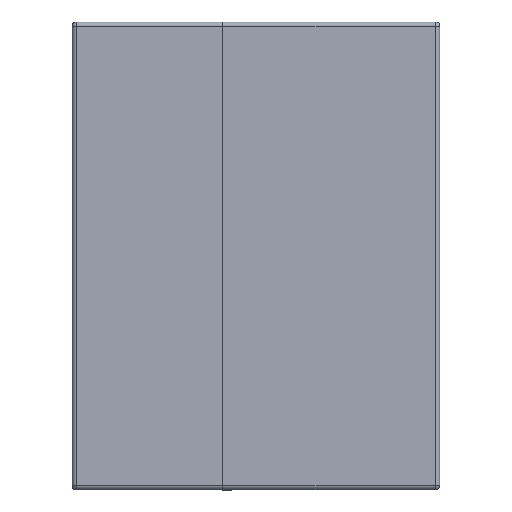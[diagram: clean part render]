
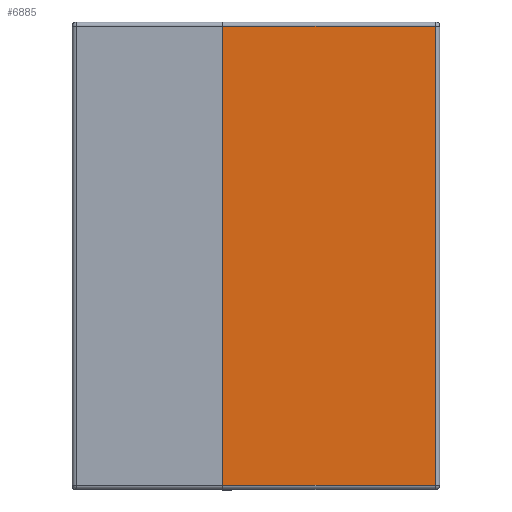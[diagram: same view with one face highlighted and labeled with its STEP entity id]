
A CAD part, top view. The second image highlights one B-rep face of the part: STEP entity #6885.
In plain terms, the highlighted planar face has unit normal (0, 0, 1).
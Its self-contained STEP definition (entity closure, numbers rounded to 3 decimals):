
#25=DIRECTION('',(0.,1.,0.));
#26=VECTOR('',#25,550.);
#27=CARTESIAN_POINT('',(-35.,-275.,155.));
#28=LINE('',#27,#26);
#33=DIRECTION('',(-1.,0.,0.));
#34=VECTOR('',#33,255.);
#35=CARTESIAN_POINT('',(220.,275.,155.));
#36=LINE('',#35,#34);
#40=DIRECTION('',(0.,1.,0.));
#41=VECTOR('',#40,550.);
#42=CARTESIAN_POINT('',(220.,-275.,155.));
#43=LINE('',#42,#41);
#47=DIRECTION('',(1.,0.,0.));
#48=VECTOR('',#47,255.);
#49=CARTESIAN_POINT('',(-35.,-275.,155.));
#50=LINE('',#49,#48);
#6296=CARTESIAN_POINT('',(220.,-275.,155.));
#6297=CARTESIAN_POINT('',(220.,275.,155.));
#6298=VERTEX_POINT('',#6296);
#6299=VERTEX_POINT('',#6297);
#6650=CARTESIAN_POINT('',(-35.,-275.,155.));
#6651=CARTESIAN_POINT('',(-35.,275.,155.));
#6652=VERTEX_POINT('',#6650);
#6653=VERTEX_POINT('',#6651);
#6870=CARTESIAN_POINT('',(-225.,-290.,155.));
#6871=DIRECTION('',(0.,0.,1.));
#6872=DIRECTION('',(1.,0.,0.));
#6873=AXIS2_PLACEMENT_3D('',#6870,#6871,#6872);
#6874=PLANE('',#6873);
#6876=ORIENTED_EDGE('',*,*,#6875,.T.);
#6878=ORIENTED_EDGE('',*,*,#6877,.F.);
#6880=ORIENTED_EDGE('',*,*,#6879,.F.);
#6882=ORIENTED_EDGE('',*,*,#6881,.F.);
#6883=EDGE_LOOP('',(#6876,#6878,#6880,#6882));
#6884=FACE_OUTER_BOUND('',#6883,.F.);
#6875=EDGE_CURVE('',#6652,#6653,#28,.T.);
#6877=EDGE_CURVE('',#6299,#6653,#36,.T.);
#6879=EDGE_CURVE('',#6298,#6299,#43,.T.);
#6881=EDGE_CURVE('',#6652,#6298,#50,.T.);
#6885=ADVANCED_FACE('',(#6884),#6874,.T.);
